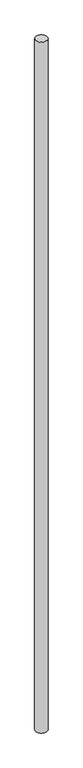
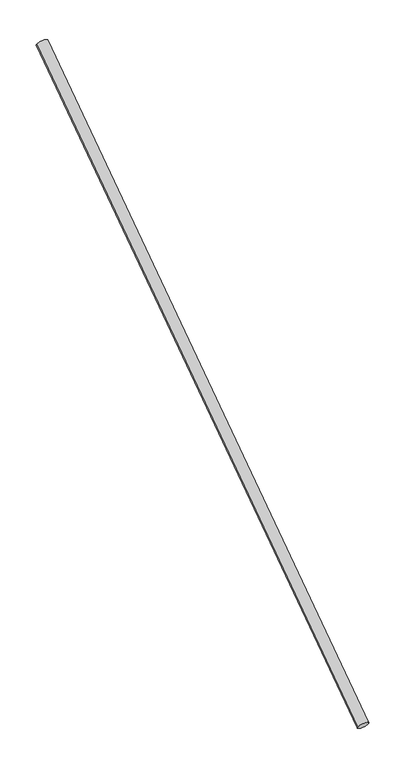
"""IFC4 building model written with IfcOpenShell, lengths in millimetres: proxy geometry, 玄関手摺 : 玄関手摺."""

from ifc_helpers import new_model, si_unit, point, frame, origin, origin_2d, place, context, project, spatial, circle_curve, trimmed, segment, composite_curve, outline, extrude, source, transform, mapped, element, save


def generic_models_6d567278(model_context):
    return source(origin(), model_context, "Body", "SweptSolid", [
        extrude(outline(composite_curve([segment(trimmed(circle_curve(origin_2d(), 15.0), [point((15.0, 0.0))], [point((-15.0, 0.0))], False, "CARTESIAN"), True, "CONTINUOUS"), segment(trimmed(circle_curve(origin_2d(), 15.0), [point((-15.0, 0.0))], [point((15.0, 0.0))], False, "CARTESIAN"), True, "CONTINUOUS")], self_intersect=False)), frame((-10945.6194095, -7639.7401342, -80.0), z_axis=(0.0, 0.8221921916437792, 0.5692099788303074), x_axis=(-1.0, 0.0, 0.0)), (0.0, 0.0, 1.0), 1897.3665961),
    ])


if __name__ == "__main__":
    model = new_model("IFC4")
    model_context = context("Model", 3, world=origin())
    ifc_project = project(units=[si_unit("LENGTHUNIT", "METRE", prefix="MILLI")], contexts=[model_context])
    site = spatial("IfcSite", under=ifc_project)
    building = spatial("IfcBuilding", under=site)
    placement = place(None, origin())
    generic_models_shape = generic_models_6d567278(model_context)
    element("IfcBuildingElementProxy", 1, Name="玄関手摺 : 玄関手摺", ObjectType="玄関手摺 : 玄関手摺", at=placement, inside=building, context=model_context, shape_type="MappedRepresentation", body=[
        mapped(generic_models_shape, transform((0.0, 0.0, 0.0), x_axis=(1.0, 0.0, 0.0), y_axis=(0.0, 1.0, 0.0), z_axis=(0.0, 0.0, 1.0))),
    ])
    save(model, "model.ifc")
